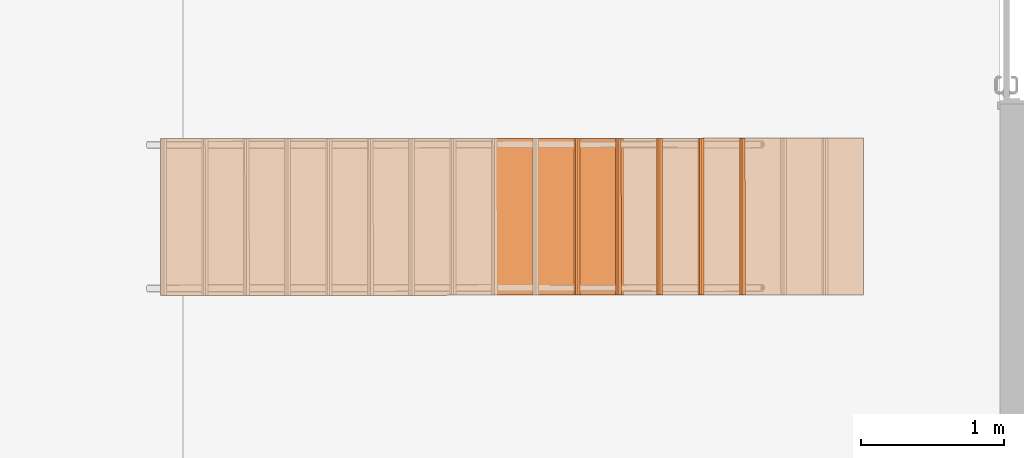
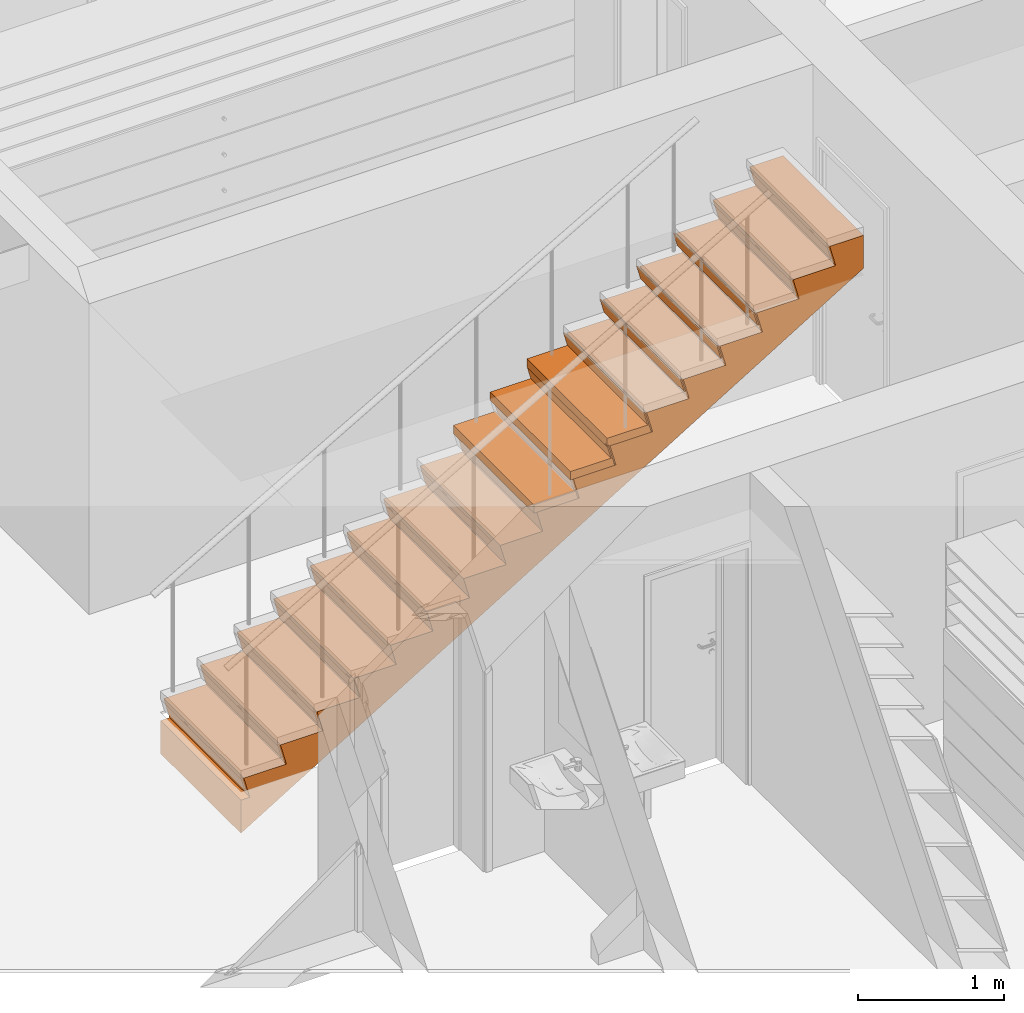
# One storey, part 119 of 127: 9 proxies, 1 element without a shape of its own.
"""IFC2X3 building model written with IfcOpenShell, lengths in millimetres."""

from ifc_helpers import new_model, entity, si_unit, converted_unit, derived_unit, money_unit, direction, frame, origin_with_axes, place, context, subcontext, project, spatial, faceted_brep, material, type_object, element, aggregate, save


model = new_model("IFC2X3")

# Units and contexts
model_context = context("Model", 3, precision=1e-05, world=origin_with_axes(), true_north=direction((0.0, 1.0)))
body_context = subcontext(model_context, "Body", "Model", "MODEL_VIEW")
ifc_project = project(units=[si_unit("LENGTHUNIT", "METRE", prefix="MILLI"), si_unit("AREAUNIT", "SQUARE_METRE"), si_unit("VOLUMEUNIT", "CUBIC_METRE"), converted_unit("PLANEANGLEUNIT", "DEGREE", entity("IfcPlaneAngleMeasure", 0.0174532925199), si_unit("PLANEANGLEUNIT", "RADIAN"), dimensions=[0, 0, 0, 0, 0, 0, 0]), si_unit("SOLIDANGLEUNIT", "STERADIAN"), money_unit("EUR"), converted_unit("TIMEUNIT", "Year", entity("IfcTimeMeasure", 31556926.0), si_unit("TIMEUNIT", "SECOND"), dimensions=[0, 0, 1, 0, 0, 0, 0]), si_unit("MASSUNIT", "GRAM", prefix="KILO"), si_unit("THERMODYNAMICTEMPERATUREUNIT", "DEGREE_CELSIUS"), si_unit("LUMINOUSINTENSITYUNIT", "LUMEN"), si_unit("ENERGYUNIT", "JOULE", prefix="MEGA"), derived_unit("THERMALCONDUCTANCEUNIT", [(si_unit("POWERUNIT", "WATT"), 1), (si_unit("LENGTHUNIT", "METRE"), -1), (si_unit("THERMODYNAMICTEMPERATUREUNIT", "KELVIN"), -1)]), derived_unit("SPECIFICHEATCAPACITYUNIT", [(si_unit("ENERGYUNIT", "JOULE"), 1), (si_unit("MASSUNIT", "GRAM", prefix="KILO"), -1), (si_unit("THERMODYNAMICTEMPERATUREUNIT", "KELVIN"), -1)]), derived_unit("MASSDENSITYUNIT", [(si_unit("MASSUNIT", "GRAM", prefix="KILO"), 1), (si_unit("VOLUMEUNIT", "CUBIC_METRE"), -1)])], contexts=[model_context])

# Site, building, storey
site_placement = place(None, origin_with_axes())
site = spatial("IfcSite", under=ifc_project, at=site_placement, Name="Site", CompositionType="ELEMENT")
building_placement = place(site_placement, origin_with_axes())
building = spatial("IfcBuilding", under=site, at=building_placement, Name="Building", CompositionType="ELEMENT")
storey_placement = place(building_placement, origin_with_axes())
storey = spatial("IfcBuildingStorey", under=building, at=storey_placement, Name="1 KORRUS", CompositionType="ELEMENT", Elevation=0.0)

# Stair, proxies
stair_placement = place(storey_placement, frame((24844.9039309, 41346.7944087, 0.0), z_axis=(0.0, 0.0, 1.0), x_axis=(1.0, 0.0, 0.0)))
stair = element("IfcStair", 1, at=stair_placement, inside=storey, Name="STAIR - 001", ShapeType="NOTDEFINED")
ifc_material = material(Name="Betoon - Ol.Olev konstruktsioon")
building_element_proxy_type_1 = type_object("IfcBuildingElementProxyType", Name="BETOON TREPP", PredefinedType="NOTDEFINED")
proxy_1_placement = place(stair_placement, origin_with_axes())
proxy_1 = element("IfcBuildingElementProxy", 2, at=proxy_1_placement, type_object=building_element_proxy_type_1, material=ifc_material, Name="Betoon - Ol.Olev konstruktsioon;  Objekti nimi:", context=body_context, shape_type="Brep", body=[
    faceted_brep([(4834.20881468, -1096.14609166, 2594.05305173), (4882.54213265, -1096.10755605, 2623.46481644), (4930.87545063, -1096.06902043, 2652.87658115), (4930.87545062, -1096.06901719, 2930.0), (4664.2605509, -1096.2815863, 2930.0), (4711.54568747, -1096.24388638, 2753.52941176), (4374.26064307, -1096.51280023, 2753.52941176), (4421.54577964, -1096.47510076, 2577.05882353), (4084.26073524, -1096.74401395, 2577.05882353), (4131.54587182, -1096.70631447, 2400.58823529), (3794.26082741, -1096.97522767, 2400.58823529), (3841.54596399, -1096.93752819, 2224.11764706), (3504.26091958, -1097.20644138, 2224.11764706), (3551.54605616, -1097.16874191, 2047.64705882), (3214.26101176, -1097.4376551, 2047.64705882), (3261.54614833, -1097.39995563, 1871.17647059), (2924.26110393, -1097.66886882, 1871.17647059), (2971.5462405, -1097.63116934, 1694.70588235), (2634.2611961, -1097.90008254, 1694.70588235), (2681.54633268, -1097.86238306, 1518.23529412), (2344.26128827, -1098.13129625, 1518.23529412), (2391.54642485, -1098.09359678, 1341.76470588), (2054.26138044, -1098.36250997, 1341.76470588), (2101.54651702, -1098.3248105, 1165.29411765), (1764.26147262, -1098.59372369, 1165.29411765), (1811.54660919, -1098.55602421, 988.823529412), (1474.26156479, -1098.82493741, 988.823529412), (1521.54670136, -1098.78723793, 812.352941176), (1184.26165696, -1099.05615112, 812.352941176), (1231.54679354, -1099.01845165, 635.882352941), (894.261749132, -1099.28736484, 635.882352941), (941.546885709, -1099.24966536, 459.411764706), (604.261841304, -1099.51857856, 459.411764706), (651.546977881, -1099.48087908, 282.941176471), (314.261933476, -1099.74979227, 282.941176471), (361.547070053, -1099.7120928, 106.470588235), (24.2620256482, -1099.98100599, 106.470588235), (71.5471622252, -1099.94330652, -70.0), (0.87701754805, -1099.99965038, -70.0), (0.87701754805, -1099.99965038, -347.123418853), (49.2103355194, -1099.96111476, -317.711654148), (97.5436534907, -1099.92257914, -288.299889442), (145.876971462, -1099.88404352, -258.888124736), (194.210289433, -1099.8455079, -229.47636003), (242.543607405, -1099.80697228, -200.064595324), (290.876925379, -1099.7684399, -170.652830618), (339.21024335, -1099.72990428, -141.241065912), (387.543561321, -1099.69136866, -111.829301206), (435.876879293, -1099.65283304, -82.4175365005), (484.210197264, -1099.61429742, -53.0057717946), (532.543515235, -1099.5757618, -23.5940070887), (580.876833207, -1099.53722618, 5.81775761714), (629.210151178, -1099.49869056, 35.229522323), (677.543469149, -1099.46015494, 64.6412870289), (725.87678712, -1099.42161933, 94.0530517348), (774.210105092, -1099.38308371, 123.464816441), (822.543423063, -1099.34454809, 152.876581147), (870.876741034, -1099.30601247, 182.288345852), (919.210059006, -1099.26747685, 211.700110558), (967.543376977, -1099.22894123, 241.111875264), (1015.87669495, -1099.19040561, 270.52363997), (1064.21001292, -1099.15186999, 299.935404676), (1112.54333089, -1099.11333437, 329.347169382), (1160.87664886, -1099.07479875, 358.758934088), (1209.20996683, -1099.03626313, 388.170698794), (1257.54328481, -1098.99772751, 417.582463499), (1305.87660278, -1098.95919189, 446.994228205), (1354.20992075, -1098.92065627, 476.405992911), (1402.54323872, -1098.88212065, 505.817757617), (1450.87655669, -1098.84358503, 535.229522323), (1499.20987466, -1098.80504941, 564.641287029), (1547.54319263, -1098.76651379, 594.053051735), (1595.8765106, -1098.72797817, 623.464816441), (1644.20982858, -1098.68944255, 652.876581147), (1692.54314655, -1098.65090693, 682.288345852), (1740.87646452, -1098.61237132, 711.700110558), (1789.20978249, -1098.5738357, 741.111875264), (1837.54310046, -1098.53530008, 770.52363997), (1885.87641843, -1098.49676446, 799.935404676), (1934.2097364, -1098.45822884, 829.347169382), (1982.54305437, -1098.41969322, 858.758934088), (2030.87637235, -1098.3811576, 888.170698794), (2079.20969032, -1098.34262198, 917.582463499), (2127.54300829, -1098.30408636, 946.994228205), (2175.87632626, -1098.26555074, 976.405992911), (2224.20964423, -1098.22701512, 1005.81775762), (2272.5429622, -1098.1884795, 1035.22952232), (2320.87628017, -1098.14994388, 1064.64128703), (2369.20959815, -1098.11140826, 1094.05305173), (2417.54291612, -1098.07287264, 1123.46481644), (2465.87623409, -1098.03433702, 1152.87658115), (2514.20955206, -1097.9958014, 1182.28834585), (2562.54287003, -1097.95726578, 1211.70011056), (2610.876188, -1097.91873016, 1241.11187526), (2659.20950597, -1097.88019454, 1270.52363997), (2707.54282394, -1097.84165892, 1299.93540468), (2755.87614192, -1097.8031233, 1329.34716938), (2804.20945989, -1097.76458769, 1358.75893409), (2852.54277786, -1097.72605207, 1388.17069879), (2900.87609583, -1097.68751645, 1417.5824635), (2949.2094138, -1097.64898083, 1446.99422821), (2997.54273177, -1097.61044521, 1476.40599291), (3045.87604974, -1097.57190959, 1505.81775762), (3094.20936772, -1097.53337397, 1535.22952232), (3142.54268569, -1097.49483835, 1564.64128703), (3190.87600366, -1097.45630273, 1594.05305173), (3239.20932163, -1097.41776711, 1623.46481644), (3287.5426396, -1097.37923149, 1652.87658115), (3335.87595757, -1097.34069587, 1682.28834585), (3384.20927554, -1097.30216025, 1711.70011056), (3432.54259351, -1097.26362463, 1741.11187526), (3480.87591149, -1097.22508901, 1770.52363997), (3529.20922946, -1097.18655339, 1799.93540468), (3577.54254743, -1097.14801777, 1829.34716938), (3625.8758654, -1097.10948215, 1858.75893409), (3674.20918337, -1097.07094653, 1888.17069879), (3722.54250134, -1097.03241091, 1917.5824635), (3770.87581931, -1096.99387529, 1946.99422821), (3819.20913729, -1096.95533968, 1976.40599291), (3867.54245526, -1096.91680406, 2005.81775762), (3915.87577323, -1096.87826844, 2035.22952232), (3964.2090912, -1096.83973282, 2064.64128703), (4012.54240917, -1096.8011972, 2094.05305173), (4060.87572714, -1096.76266158, 2123.46481644), (4109.20904511, -1096.72412596, 2152.87658115), (4157.54236308, -1096.68559034, 2182.28834585), (4205.87568106, -1096.64705472, 2211.70011056), (4254.20899903, -1096.6085191, 2241.11187526), (4302.542317, -1096.56998348, 2270.52363997), (4350.87563497, -1096.53144786, 2299.93540468), (4399.20895294, -1096.49291224, 2329.34716938), (4447.54227091, -1096.45437662, 2358.75893409), (4495.87558888, -1096.415841, 2388.17069879), (4544.20890686, -1096.37730538, 2417.5824635), (4592.54222483, -1096.33876976, 2446.99422821), (4640.8755428, -1096.30023414, 2476.40599291), (4689.20886077, -1096.26169852, 2505.81775762), (4737.54217874, -1096.2231629, 2535.22952232), (4785.87549671, -1096.18462728, 2564.64128703), (4833.77030591, -546.146264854, 2594.05305173), (4929.99843308, 3.93063319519, 2652.87658115), (4881.6651151, 3.89209757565, 2623.46481644), (4929.99843308, 3.93063319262, 2930.0), (4663.38353335, 3.71806408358, 2930.0), (4710.66866992, 3.75576399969, 2753.52941176), (4373.38362552, 3.48685036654, 2753.52941176), (4420.6687621, 3.52455028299, 2577.05882353), (4083.38371769, 3.25563679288, 2577.05882353), (4130.66885427, 3.29333699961, 2400.58823529), (3793.38380986, 3.02442321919, 2400.58823529), (3840.66894644, 3.06212371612, 2224.11764706), (3503.38390203, 2.79320964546, 2224.11764706), (3550.66903861, 2.83091043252, 2047.64705882), (3213.38399421, 2.56199518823, 2047.64705882), (3260.66913078, 2.59969447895, 1871.17647059), (2923.38408638, 2.33078161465, 1871.17647059), (2970.66922296, 2.36848119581, 1694.70588235), (2633.38417855, 2.09956804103, 1694.70588235), (2680.66931513, 2.13726791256, 1518.23529412), (2343.38427072, 1.86835446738, 1518.23529412), (2390.6694073, 1.90605462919, 1341.76470588), (2053.3843629, 1.6371408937, 1341.76470588), (2100.66949947, 1.67484134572, 1165.29411765), (1763.38445507, 1.40592731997, 1165.29411765), (1810.66959164, 1.44362806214, 988.823529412), (1473.38454724, 1.17471286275, 988.823529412), (1520.66968382, 1.21241210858, 812.352941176), (1183.38463941, 0.943499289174, 812.352941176), (1230.66977599, 0.981198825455, 635.882352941), (893.384731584, 0.712285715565, 635.882352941), (940.669868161, 0.749985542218, 459.411764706), (603.384823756, 0.48107214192, 459.411764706), (650.669960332, 0.518772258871, 282.941176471), (313.384915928, 0.249858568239, 282.941176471), (360.670052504, 0.287558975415, 106.470588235), (23.3850080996, 0.0186449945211, 106.470588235), (70.6701446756, 0.0563456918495, -70.0), (0.0, 0.0, -70.0), (0.0, 0.0, -347.123418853), (97.1051447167, -549.922753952, -288.299889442), (48.3333179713, 0.0385356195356, -317.711654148), (193.771780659, -549.845682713, -229.47636003), (290.438416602, -549.768611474, -170.652830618), (387.105052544, -549.691538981, -111.829301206), (483.771688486, -549.614467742, -53.0057717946), (580.43832443, -549.53739757, 5.81775761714), (677.104960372, -549.460326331, 64.6412870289), (773.771596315, -549.383255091, 123.464816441), (870.438232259, -549.306184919, 182.288345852), (967.104868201, -549.22911368, 241.111875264), (1063.77150414, -549.152042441, 299.935404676), (1160.43814009, -549.07497194, 358.758934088), (1257.10477603, -548.997900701, 417.582463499), (1353.77141197, -548.920829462, 476.405992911), (1450.43804792, -548.843758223, 535.229522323), (1547.10468386, -548.766686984, 594.053051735), (1643.7713198, -548.689615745, 652.876581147), (1740.43795574, -548.612544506, 711.700110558), (1837.10459169, -548.535473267, 770.52363997), (1933.77122763, -548.458402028, 829.347169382), (2030.43786357, -548.381330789, 888.170698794), (2127.10449951, -548.304256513, 946.994228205), (2223.77113545, -548.227185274, 1005.81775762), (2320.4377714, -548.150115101, 1064.64128703), (2417.10440734, -548.073043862, 1123.46481644), (2513.77104328, -547.995972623, 1182.28834585), (2610.43767923, -547.918902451, 1241.11187526), (2707.10431517, -547.841831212, 1299.93540468), (2803.77095111, -547.764759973, 1358.75893409), (2900.43758705, -547.687689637, 1417.5824635), (2997.104223, -547.610618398, 1476.40599291), (3093.77085894, -547.533547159, 1535.22952232), (3190.43749488, -547.45647592, 1594.05305173), (3287.10413083, -547.379404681, 1652.87658115), (3383.77076677, -547.302333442, 1711.70011056), (3480.43740271, -547.225262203, 1770.52363997), (3577.10403865, -547.148190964, 1829.34716938), (3673.7706746, -547.071119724, 1888.17069879), (3770.43731054, -546.994048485, 1946.99422821), (3867.10394648, -546.916974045, 2005.81775762), (3963.77058242, -546.839902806, 2064.64128703), (4060.43721836, -546.762832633, 2123.46481644), (4157.10385431, -546.685761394, 2182.28834585), (4253.77049025, -546.608690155, 2241.11187526), (4350.43712619, -546.531619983, 2299.93540468), (4447.10376214, -546.454548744, 2358.75893409), (4543.77039808, -546.377477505, 2417.5824635), (4640.43703402, -546.300407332, 2476.40599291), (4737.10366997, -546.223336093, 2535.22952232), (4833.33179713, 3.85356195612, 2594.05305173), (96.6666359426, 0.077071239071, -288.299889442), (4784.99847916, 3.81502633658, 2564.64128703), (4736.66516119, 3.77649071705, 2535.22952232), (4688.33184322, 3.73795509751, 2505.81775762), (4639.99852525, 3.69941947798, 2476.40599291), (4591.66520727, 3.66088599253, 2446.99422821), (4543.3318893, 3.622350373, 2417.5824635), (4494.99857133, 3.58381475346, 2388.17069879), (4446.66525336, 3.54527913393, 2358.75893409), (4398.33193539, 3.50674351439, 2329.34716938), (4349.99861742, 3.46820789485, 2299.93540468), (4301.66529944, 3.42967440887, 2270.52363997), (4253.33198147, 3.39113878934, 2241.11187526), (4204.9986635, 3.3526031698, 2211.70011056), (4156.66534553, 3.31406755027, 2182.28834585), (4108.33202756, 3.27553193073, 2152.87658115), (4059.99870959, 3.2369963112, 2123.46481644), (4011.66539161, 3.19846282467, 2094.05305173), (3963.33207364, 3.15992720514, 2064.64128703), (3914.99875567, 3.1213915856, 2035.22952232), (3866.6654377, 3.08285596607, 2005.81775762), (3818.33211973, 3.04432034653, 1976.40599291), (3769.99880176, 3.00577832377, 1946.99422821), (3721.66548379, 2.96724270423, 1917.5824635), (3673.33216582, 2.9287070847, 1888.17069879), (3624.99884785, 2.89017146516, 1858.75893409), (3576.66552988, 2.85163584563, 1829.34716938), (3528.33221191, 2.81310022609, 1799.93540468), (3479.99889394, 2.77456460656, 1770.52363997), (3431.66557596, 2.73602898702, 1741.11187526), (3383.33225799, 2.69749336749, 1711.70011056), (3334.99894002, 2.65895774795, 1682.28834585), (3286.66562205, 2.62042212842, 1652.87658115), (3238.33230408, 2.58188650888, 1623.46481644), (3189.99898611, 2.54335088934, 1594.05305173), (3141.66566814, 2.50481526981, 1564.64128703), (3093.33235016, 2.46627965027, 1535.22952232), (3044.99903219, 2.42774403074, 1505.81775762), (2996.66571422, 2.3892084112, 1476.40599291), (2948.33239625, 2.35067279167, 1446.99422821), (2899.99907828, 2.31213717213, 1417.5824635), (2851.66576031, 2.27360335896, 1388.17069879), (2803.33244234, 2.23506773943, 1358.75893409), (2754.99912436, 2.19653211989, 1329.34716938), (2706.66580639, 2.15799650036, 1299.93540468), (2658.33248842, 2.11946088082, 1270.52363997), (2609.99917045, 2.08092526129, 1241.11187526), (2561.66585248, 2.04239177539, 1211.70011056), (2513.33253451, 2.00385615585, 1182.28834585), (2464.99921653, 1.96532053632, 1152.87658115), (2416.66589856, 1.92678491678, 1123.46481644), (2368.33258059, 1.88824929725, 1094.05305173), (2319.99926262, 1.84971367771, 1064.64128703), (2271.66594465, 1.81118019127, 1035.22952232), (2223.33262668, 1.77264457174, 1005.81775762), (2174.9993087, 1.7341089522, 976.405992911), (2126.66599073, 1.69557333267, 946.994228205), (2078.33267276, 1.65703771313, 917.582463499), (2029.9993548, 1.61849602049, 888.170698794), (1981.66603682, 1.57996040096, 858.758934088), (1933.33271885, 1.54142478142, 829.347169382), (1884.99940088, 1.50288916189, 799.935404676), (1836.66608291, 1.46435354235, 770.52363997), (1788.33276494, 1.42581792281, 741.111875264), (1739.99944697, 1.38728230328, 711.700110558), (1691.666129, 1.34874668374, 682.288345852), (1643.33281103, 1.31021106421, 652.876581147), (1594.99949305, 1.27167544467, 623.464816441), (1546.66617508, 1.23313982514, 594.053051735), (1498.33285711, 1.1946042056, 564.641287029), (1449.99953914, 1.15606858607, 535.229522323), (1401.66622117, 1.11753296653, 505.817757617), (1353.3329032, 1.07899734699, 476.405992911), (1304.99958523, 1.04046172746, 446.994228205), (1256.66626725, 1.00192610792, 417.582463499), (1208.33294928, 0.963390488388, 388.170698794), (1159.99963131, 0.924854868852, 358.758934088), (1111.66631334, 0.886320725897, 329.347169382), (1063.33299537, 0.847785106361, 299.935404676), (1014.9996774, 0.809249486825, 270.52363997), (966.666359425, 0.77071386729, 241.111875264), (918.333041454, 0.732178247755, 211.700110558), (869.999723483, 0.693642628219, 182.288345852), (821.66640551, 0.655109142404, 152.876581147), (773.333087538, 0.616573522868, 123.464816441), (724.999769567, 0.578037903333, 94.0530517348), (676.666451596, 0.539502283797, 64.6412870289), (628.333133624, 0.500966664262, 35.229522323), (579.999815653, 0.462431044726, 5.81775761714), (531.66649768, 0.423897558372, -23.5940070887), (483.333179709, 0.385361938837, -53.0057717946), (434.999861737, 0.346826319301, -82.4175365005), (386.666543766, 0.308290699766, -111.829301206), (338.333225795, 0.26975508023, -141.241065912), (289.999907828, 0.231213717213, -170.652830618), (241.666589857, 0.192678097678, -200.064595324), (193.333271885, 0.154142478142, -229.47636003), (144.999953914, 0.115606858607, -258.888124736)], [[[0, 1, 2, 3, 4, 5, 6, 7, 8, 9, 10, 11, 12, 13, 14, 15, 16, 17, 18, 19, 20, 21, 22, 23, 24, 25, 26, 27, 28, 29, 30, 31, 32, 33, 34, 35, 36, 37, 38, 39, 40, 41, 42, 43, 44, 45, 46, 47, 48, 49, 50, 51, 52, 53, 54, 55, 56, 57, 58, 59, 60, 61, 62, 63, 64, 65, 66, 67, 68, 69, 70, 71, 72, 73, 74, 75, 76, 77, 78, 79, 80, 81, 82, 83, 84, 85, 86, 87, 88, 89, 90, 91, 92, 93, 94, 95, 96, 97, 98, 99, 100, 101, 102, 103, 104, 105, 106, 107, 108, 109, 110, 111, 112, 113, 114, 115, 116, 117, 118, 119, 120, 121, 122, 123, 124, 125, 126, 127, 128, 129, 130, 131, 132, 133, 134, 135, 136, 137, 138]], [[139, 1, 0]], [[140, 2, 1, 139, 141]], [[3, 2, 140, 142]], [[3, 142, 143, 4]], [[143, 144, 5, 4]], [[145, 6, 5, 144]], [[145, 146, 7, 6]], [[147, 8, 7, 146]], [[147, 148, 9, 8]], [[149, 10, 9, 148]], [[149, 150, 11, 10]], [[151, 12, 11, 150]], [[151, 152, 13, 12]], [[153, 14, 13, 152]], [[153, 154, 15, 14]], [[155, 16, 15, 154]], [[155, 156, 17, 16]], [[157, 18, 17, 156]], [[157, 158, 19, 18]], [[159, 20, 19, 158]], [[159, 160, 21, 20]], [[161, 22, 21, 160]], [[161, 162, 23, 22]], [[163, 24, 23, 162]], [[163, 164, 25, 24]], [[165, 26, 25, 164]], [[165, 166, 27, 26]], [[167, 28, 27, 166]], [[167, 168, 29, 28]], [[169, 30, 29, 168]], [[169, 170, 31, 30]], [[171, 32, 31, 170]], [[171, 172, 33, 32]], [[173, 34, 33, 172]], [[173, 174, 35, 34]], [[175, 36, 35, 174]], [[175, 176, 37, 36]], [[176, 177, 38, 37]], [[177, 178, 39, 38]], [[179, 40, 39, 178, 180]], [[179, 41, 40]], [[179, 42, 41]], [[181, 43, 42]], [[181, 44, 43]], [[182, 45, 44]], [[182, 46, 45]], [[183, 47, 46]], [[183, 48, 47]], [[184, 49, 48]], [[184, 50, 49]], [[185, 51, 50]], [[185, 52, 51]], [[186, 53, 52]], [[186, 54, 53]], [[187, 55, 54]], [[187, 56, 55]], [[188, 57, 56]], [[188, 58, 57]], [[189, 59, 58]], [[189, 60, 59]], [[190, 61, 60]], [[190, 62, 61]], [[191, 63, 62]], [[191, 64, 63]], [[192, 65, 64]], [[192, 66, 65]], [[193, 67, 66]], [[193, 68, 67]], [[194, 69, 68]], [[194, 70, 69]], [[195, 71, 70]], [[195, 72, 71]], [[196, 73, 72]], [[196, 74, 73]], [[197, 75, 74]], [[197, 76, 75]], [[198, 77, 76]], [[198, 78, 77]], [[199, 79, 78]], [[199, 80, 79]], [[200, 81, 80]], [[200, 82, 81]], [[201, 83, 82]], [[201, 84, 83]], [[202, 85, 84]], [[202, 86, 85]], [[203, 87, 86]], [[203, 88, 87]], [[204, 89, 88]], [[204, 90, 89]], [[205, 91, 90]], [[205, 92, 91]], [[206, 93, 92]], [[206, 94, 93]], [[207, 95, 94]], [[207, 96, 95]], [[208, 97, 96]], [[208, 98, 97]], [[209, 99, 98]], [[209, 100, 99]], [[210, 101, 100]], [[210, 102, 101]], [[211, 103, 102]], [[211, 104, 103]], [[212, 105, 104]], [[212, 106, 105]], [[213, 107, 106]], [[213, 108, 107]], [[214, 109, 108]], [[214, 110, 109]], [[215, 111, 110]], [[215, 112, 111]], [[216, 113, 112]], [[216, 114, 113]], [[217, 115, 114]], [[217, 116, 115]], [[218, 117, 116]], [[218, 118, 117]], [[219, 119, 118]], [[219, 120, 119]], [[220, 121, 120]], [[220, 122, 121]], [[221, 123, 122]], [[221, 124, 123]], [[222, 125, 124]], [[222, 126, 125]], [[223, 127, 126]], [[223, 128, 127]], [[224, 129, 128]], [[224, 130, 129]], [[225, 131, 130]], [[225, 132, 131]], [[226, 133, 132]], [[226, 134, 133]], [[227, 135, 134]], [[227, 136, 135]], [[228, 137, 136]], [[228, 138, 137]], [[139, 0, 138]], [[139, 229, 141]], [[230, 180, 178, 177, 176, 175, 174, 173, 172, 171, 170, 169, 168, 167, 166, 165, 164, 163, 162, 161, 160, 159, 158, 157, 156, 155, 154, 153, 152, 151, 150, 149, 148, 147, 146, 145, 144, 143, 142, 140, 141, 229, 231, 232, 233, 234, 235, 236, 237, 238, 239, 240, 241, 242, 243, 244, 245, 246, 247, 248, 249, 250, 251, 252, 253, 254, 255, 256, 257, 258, 259, 260, 261, 262, 263, 264, 265, 266, 267, 268, 269, 270, 271, 272, 273, 274, 275, 276, 277, 278, 279, 280, 281, 282, 283, 284, 285, 286, 287, 288, 289, 290, 291, 292, 293, 294, 295, 296, 297, 298, 299, 300, 301, 302, 303, 304, 305, 306, 307, 308, 309, 310, 311, 312, 313, 314, 315, 316, 317, 318, 319, 320, 321, 322, 323, 324, 325, 326, 327]], [[179, 180, 230]], [[327, 181, 42, 179]], [[181, 325, 182, 44]], [[182, 323, 183, 46]], [[321, 184, 48, 183]], [[184, 319, 185, 50]], [[317, 186, 52, 185]], [[315, 187, 54, 186]], [[313, 188, 56, 187]], [[311, 189, 58, 188]], [[189, 309, 190, 60]], [[190, 307, 191, 62]], [[305, 192, 64, 191]], [[303, 193, 66, 192]], [[193, 301, 194, 68]], [[194, 299, 195, 70]], [[297, 196, 72, 195]], [[295, 197, 74, 196]], [[293, 198, 76, 197]], [[291, 199, 78, 198]], [[199, 289, 200, 80]], [[200, 287, 201, 82]], [[285, 202, 84, 201]], [[283, 203, 86, 202]], [[203, 281, 204, 88]], [[204, 279, 205, 90]], [[277, 206, 92, 205]], [[206, 275, 207, 94]], [[273, 208, 96, 207]], [[271, 209, 98, 208]], [[269, 210, 100, 209]], [[267, 211, 102, 210]], [[211, 265, 212, 104]], [[263, 213, 106, 212]], [[261, 214, 108, 213]], [[214, 259, 215, 110]], [[257, 216, 112, 215]], [[216, 255, 217, 114]], [[253, 218, 116, 217]], [[251, 219, 118, 218]], [[219, 249, 220, 120]], [[220, 247, 221, 122]], [[245, 222, 124, 221]], [[243, 223, 126, 222]], [[241, 224, 128, 223]], [[239, 225, 130, 224]], [[237, 226, 132, 225]], [[235, 227, 134, 226]], [[227, 233, 228, 136]], [[228, 231, 139, 138]], [[139, 231, 229]], [[228, 232, 231]], [[228, 233, 232]], [[227, 234, 233]], [[227, 235, 234]], [[226, 236, 235]], [[226, 237, 236]], [[225, 238, 237]], [[225, 239, 238]], [[224, 240, 239]], [[224, 241, 240]], [[223, 242, 241]], [[223, 243, 242]], [[222, 244, 243]], [[222, 245, 244]], [[221, 246, 245]], [[221, 247, 246]], [[220, 248, 247]], [[220, 249, 248]], [[219, 250, 249]], [[219, 251, 250]], [[218, 252, 251]], [[218, 253, 252]], [[217, 254, 253]], [[217, 255, 254]], [[216, 256, 255]], [[216, 257, 256]], [[215, 258, 257]], [[215, 259, 258]], [[214, 260, 259]], [[214, 261, 260]], [[213, 262, 261]], [[213, 263, 262]], [[212, 264, 263]], [[212, 265, 264]], [[211, 266, 265]], [[211, 267, 266]], [[210, 268, 267]], [[210, 269, 268]], [[209, 270, 269]], [[209, 271, 270]], [[208, 272, 271]], [[208, 273, 272]], [[207, 274, 273]], [[207, 275, 274]], [[206, 276, 275]], [[206, 277, 276]], [[205, 278, 277]], [[205, 279, 278]], [[204, 280, 279]], [[204, 281, 280]], [[203, 282, 281]], [[203, 283, 282]], [[202, 284, 283]], [[202, 285, 284]], [[201, 286, 285]], [[201, 287, 286]], [[200, 288, 287]], [[200, 289, 288]], [[199, 290, 289]], [[199, 291, 290]], [[198, 292, 291]], [[198, 293, 292]], [[197, 294, 293]], [[197, 295, 294]], [[196, 296, 295]], [[196, 297, 296]], [[195, 298, 297]], [[195, 299, 298]], [[194, 300, 299]], [[194, 301, 300]], [[193, 302, 301]], [[193, 303, 302]], [[192, 304, 303]], [[192, 305, 304]], [[191, 306, 305]], [[191, 307, 306]], [[190, 308, 307]], [[190, 309, 308]], [[189, 310, 309]], [[189, 311, 310]], [[188, 312, 311]], [[188, 313, 312]], [[187, 314, 313]], [[187, 315, 314]], [[186, 316, 315]], [[186, 317, 316]], [[185, 318, 317]], [[185, 319, 318]], [[184, 320, 319]], [[184, 321, 320]], [[183, 322, 321]], [[183, 323, 322]], [[182, 324, 323]], [[182, 325, 324]], [[181, 326, 325]], [[181, 327, 326]], [[179, 230, 327]]]),
])
building_element_proxy_type_2 = type_object("IfcBuildingElementProxyType", Name="SF RISER - 020", PredefinedType="NOTDEFINED")
proxy_2_placement = place(stair_placement, frame((2900.43758705, -547.687688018, 1881.17647059), z_axis=(0.0, 0.0, 1.0), x_axis=(0.000797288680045, -0.999999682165, 0.0)))
proxy_2 = element("IfcBuildingElementProxy", 3, at=proxy_2_placement, type_object=building_element_proxy_type_2, material=ifc_material, Name=";  Objekti nimi: Riser 22", context=body_context, shape_type="Brep", body=[
    faceted_brep([(550.0, 0.0, 0.0), (550.0, 10.3527618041, 0.0), (-550.0, 10.3527618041, 0.0), (-550.0, 0.0, 0.0), (550.0, 31.2082000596, -116.470588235), (550.0, 41.5609618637, -116.470588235), (-550.0, 41.5609618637, -116.470588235), (-550.0, 31.2082000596, -116.470588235)], [[[0, 1, 2, 3]], [[0, 4, 5, 1]], [[1, 5, 6, 2]], [[3, 2, 6, 7]], [[4, 0, 3, 7]], [[5, 4, 7, 6]]]),
])
proxy_3_placement = place(stair_placement, frame((3190.43749488, -547.456474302, 2057.64705882), z_axis=(0.0, 0.0, 1.0), x_axis=(0.000797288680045, -0.999999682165, 0.0)))
proxy_3 = element("IfcBuildingElementProxy", 4, at=proxy_3_placement, type_object=building_element_proxy_type_2, material=ifc_material, Name=";  Objekti nimi: Riser 22", context=body_context, shape_type="Brep", body=[
    faceted_brep([(550.0, 0.0, 0.0), (550.0, 10.3527618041, 0.0), (-550.0, 10.3527618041, 0.0), (-550.0, 0.0, 0.0), (550.0, 31.2082000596, -116.470588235), (550.0, 41.5609618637, -116.470588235), (-550.0, 41.5609618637, -116.470588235), (-550.0, 31.2082000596, -116.470588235)], [[[0, 1, 2, 3]], [[0, 4, 5, 1]], [[1, 5, 6, 2]], [[3, 2, 6, 7]], [[4, 0, 3, 7]], [[5, 4, 7, 6]]]),
])
proxy_4_placement = place(stair_placement, frame((3480.43740271, -547.225260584, 2234.11764706), z_axis=(0.0, 0.0, 1.0), x_axis=(0.000797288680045, -0.999999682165, 0.0)))
proxy_4 = element("IfcBuildingElementProxy", 5, at=proxy_4_placement, type_object=building_element_proxy_type_2, material=ifc_material, Name=";  Objekti nimi: Riser 22", context=body_context, shape_type="Brep", body=[
    faceted_brep([(550.0, 0.0, 0.0), (550.0, 10.3527618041, 0.0), (-550.0, 10.3527618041, 0.0), (-550.0, 0.0, 0.0), (550.0, 31.2082000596, -116.470588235), (550.0, 41.5609618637, -116.470588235), (-550.0, 41.5609618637, -116.470588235), (-550.0, 31.2082000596, -116.470588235)], [[[0, 1, 2, 3]], [[0, 4, 5, 1]], [[1, 5, 6, 2]], [[3, 2, 6, 7]], [[4, 0, 3, 7]], [[5, 4, 7, 6]]]),
])
proxy_5_placement = place(stair_placement, frame((3770.43731054, -546.994046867, 2410.58823529), z_axis=(0.0, 0.0, 1.0), x_axis=(0.000797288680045, -0.999999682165, 0.0)))
proxy_5 = element("IfcBuildingElementProxy", 6, at=proxy_5_placement, type_object=building_element_proxy_type_2, material=ifc_material, Name=";  Objekti nimi: Riser 22", context=body_context, shape_type="Brep", body=[
    faceted_brep([(550.0, 0.0, 0.0), (550.0, 10.3527618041, 0.0), (-550.0, 10.3527618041, 0.0), (-550.0, 0.0, 0.0), (550.0, 31.2082000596, -116.470588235), (550.0, 41.5609618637, -116.470588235), (-550.0, 41.5609618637, -116.470588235), (-550.0, 31.2082000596, -116.470588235)], [[[0, 1, 2, 3]], [[0, 4, 5, 1]], [[1, 5, 6, 2]], [[3, 2, 6, 7]], [[4, 0, 3, 7]], [[5, 4, 7, 6]]]),
])
proxy_6_placement = place(stair_placement, frame((4060.43721837, -546.76283315, 2587.05882353), z_axis=(0.0, 0.0, 1.0), x_axis=(0.000797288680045, -0.999999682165, 0.0)))
proxy_6 = element("IfcBuildingElementProxy", 7, at=proxy_6_placement, type_object=building_element_proxy_type_2, material=ifc_material, Name=";  Objekti nimi: Riser 22", context=body_context, shape_type="Brep", body=[
    faceted_brep([(550.0, 0.0, 0.0), (550.0, 10.3527618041, 0.0), (-550.0, 10.3527618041, 0.0), (-550.0, 0.0, 0.0), (550.0, 31.2082000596, -116.470588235), (550.0, 41.5609618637, -116.470588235), (-550.0, 41.5609618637, -116.470588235), (-550.0, 31.2082000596, -116.470588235)], [[[0, 1, 2, 3]], [[0, 4, 5, 1]], [[1, 5, 6, 2]], [[3, 2, 6, 7]], [[4, 0, 3, 7]], [[5, 4, 7, 6]]]),
])
building_element_proxy_type_3 = type_object("IfcBuildingElementProxyType", Name="SF TREAD - 020", PredefinedType="NOTDEFINED")
proxy_7_placement = place(stair_placement, frame((2320.4377714, -548.150115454, 1588.23529412), z_axis=(0.0, 0.0, 1.0), x_axis=(0.000797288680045, -0.999999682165, 0.0)))
proxy_7 = element("IfcBuildingElementProxy", 8, at=proxy_7_placement, type_object=building_element_proxy_type_3, material=ifc_material, Name=";  Objekti nimi: Tread 22", context=body_context, shape_type="Brep", body=[
    faceted_brep([(-550.0, 347.637910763, -70.0), (550.0, 347.637916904, -70.0), (550.0, 0.0, -70.0), (-550.0, 0.0, -70.0), (510.0, 40.0, -70.0), (510.0, 307.637916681, -70.0), (-510.0, 307.637910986, -70.0), (-510.0, 40.0, -70.0), (-550.00000018, 347.637910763, -60.0), (550.0, 347.637910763, -60.0), (550.0, 331.560959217, 0.0), (550.0, 0.0, 0.0), (-550.0, 0.0, 0.0), (-550.0, 331.560959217, 0.0), (510.0, 40.0, -60.0), (510.0, 307.637916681, -60.0), (-510.0, 307.637910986, -60.0), (-510.0, 40.0, -60.0)], [[[0, 1, 2, 3], [4, 5, 6, 7]], [[0, 8, 9, 1]], [[10, 11, 2, 1, 9]], [[11, 12, 3, 2]], [[12, 13, 8, 0, 3]], [[5, 4, 14, 15]], [[6, 5, 15, 16]], [[7, 6, 16, 17]], [[4, 7, 17, 14]], [[13, 10, 9, 8]], [[10, 13, 12, 11]], [[17, 16, 15, 14]]]),
])
proxy_8_placement = place(stair_placement, frame((2610.43767923, -547.918901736, 1764.70588235), z_axis=(0.0, 0.0, 1.0), x_axis=(0.000797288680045, -0.999999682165, 0.0)))
proxy_8 = element("IfcBuildingElementProxy", 9, at=proxy_8_placement, type_object=building_element_proxy_type_3, material=ifc_material, Name=";  Objekti nimi: Tread 22", context=body_context, shape_type="Brep", body=[
    faceted_brep([(-550.0, 347.637910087, -70.0), (550.0, 347.637916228, -70.0), (550.0, 0.0, -70.0), (-550.0, 0.0, -70.0), (510.0, 40.0, -70.0), (510.0, 307.637916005, -70.0), (-510.0, 307.63791031, -70.0), (-510.0, 40.0, -70.0), (-550.00000018, 347.637910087, -60.0), (550.0, 347.637910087, -60.0), (550.0, 331.560958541, 0.0), (550.0, 0.0, 0.0), (-550.0, 0.0, 0.0), (-550.0, 331.560958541, 0.0), (510.0, 40.0, -60.0), (510.0, 307.637916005, -60.0), (-510.0, 307.63791031, -60.0), (-510.0, 40.0, -60.0)], [[[0, 1, 2, 3], [4, 5, 6, 7]], [[0, 8, 9, 1]], [[10, 11, 2, 1, 9]], [[11, 12, 3, 2]], [[12, 13, 8, 0, 3]], [[5, 4, 14, 15]], [[6, 5, 15, 16]], [[7, 6, 16, 17]], [[4, 7, 17, 14]], [[13, 10, 9, 8]], [[10, 13, 12, 11]], [[17, 16, 15, 14]]]),
])
proxy_9_placement = place(stair_placement, frame((2900.43758705, -547.687688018, 1941.17647059), z_axis=(0.0, 0.0, 1.0), x_axis=(0.000797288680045, -0.999999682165, 0.0)))
proxy_9 = element("IfcBuildingElementProxy", 10, at=proxy_9_placement, type_object=building_element_proxy_type_3, material=ifc_material, Name=";  Objekti nimi: Tread 22", context=body_context, shape_type="Brep", body=[
    faceted_brep([(-550.0, 347.63790941, -70.0), (550.0, 347.637915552, -70.0), (550.0, 0.0, -70.0), (-550.0, 0.0, -70.0), (510.0, 40.0, -70.0), (510.0, 307.637915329, -70.0), (-510.0, 307.637909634, -70.0), (-510.0, 40.0, -70.0), (-550.00000018, 347.63790941, -60.0), (550.0, 347.63790941, -60.0), (550.0, 331.560957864, 0.0), (550.0, 0.0, 0.0), (-550.0, 0.0, 0.0), (-550.0, 331.560957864, 0.0), (510.0, 40.0, -60.0), (510.0, 307.637915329, -60.0), (-510.0, 307.637909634, -60.0), (-510.0, 40.0, -60.0)], [[[0, 1, 2, 3], [4, 5, 6, 7]], [[0, 8, 9, 1]], [[10, 11, 2, 1, 9]], [[11, 12, 3, 2]], [[12, 13, 8, 0, 3]], [[5, 4, 14, 15]], [[6, 5, 15, 16]], [[7, 6, 16, 17]], [[4, 7, 17, 14]], [[13, 10, 9, 8]], [[10, 13, 12, 11]], [[17, 16, 15, 14]]]),
])
aggregate(stair, [proxy_1, proxy_2, proxy_3, proxy_4, proxy_5, proxy_6, proxy_7, proxy_8, proxy_9])

save(model, "model.ifc")
